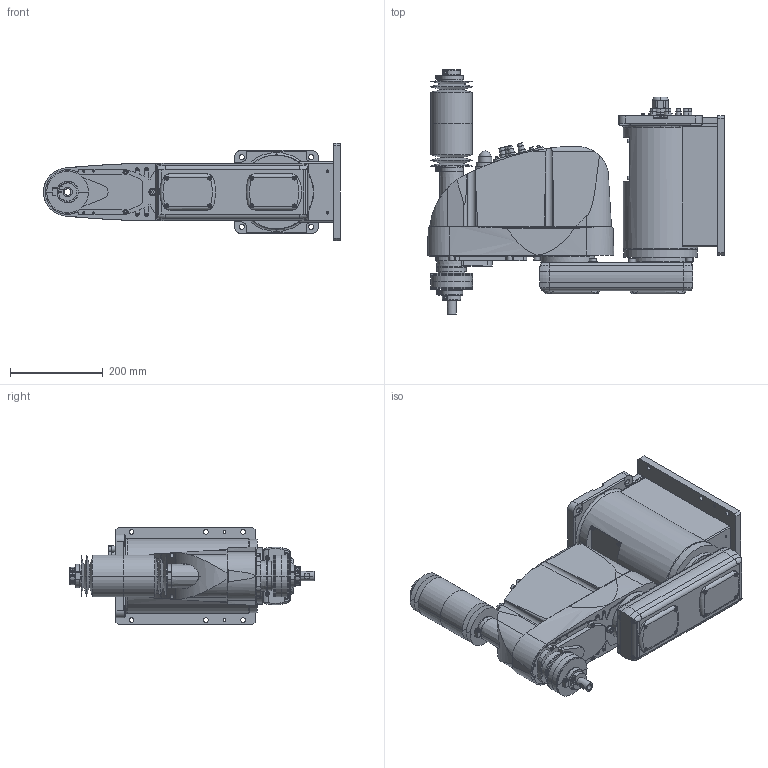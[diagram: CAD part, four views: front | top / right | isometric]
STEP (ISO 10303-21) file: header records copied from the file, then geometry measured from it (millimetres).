
FILE_DESCRIPTION( ( '' ), '1' );
FILE_NAME( '//expscmdclustefs.cadenas.external/client_exchange/iodir/jobs/output/wkb51533401_no0/STEP/G6_451CW_2_03.stp', '2012-11-23T08:46:07', ( '' ), ( '' ), ' ', ' ', ' ' );
FILE_SCHEMA( ( 'CONFIG_CONTROL_DESIGN' ) );
Length unit declared in the file: millimetre
Products named in the file (8): 1; 2; 3; 4; 5; 6; 7; 8
Bounding box: 640 x 526 x 210 mm (x, y, z)
Volume: 21606559.2 mm3; surface area: 1119026.7 mm2
Topology: 8 solids, 8 shells, 1845 faces, 4516 edges, 2888 vertices
Faces by surface type: plane 955, cylinder 616, cone 234, torus 39, sphere 1
Entity records: 57884 total; most frequent: CARTESIAN_POINT 13081, DIRECTION 9546, ORIENTED_EDGE 8980, EDGE_CURVE 4490, AXIS2_PLACEMENT_3D 3423, VERTEX_POINT 2888, LINE 2700, VECTOR 2700
